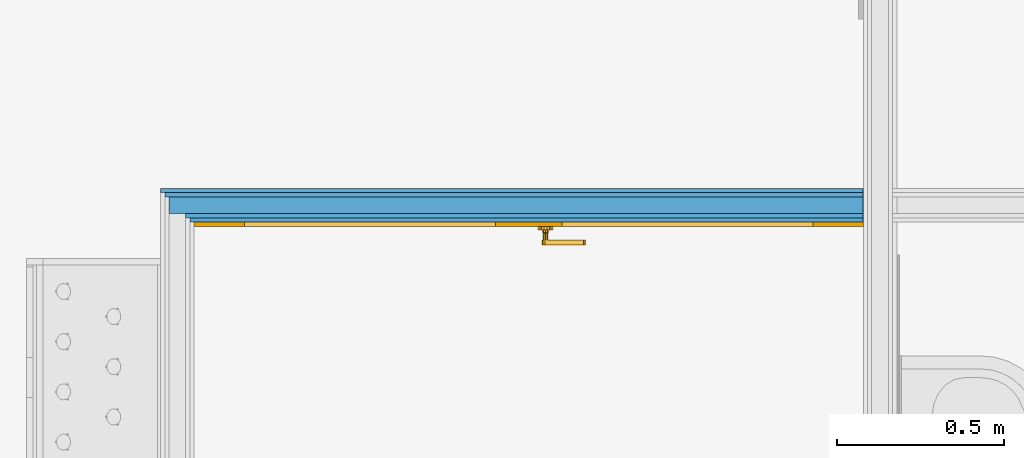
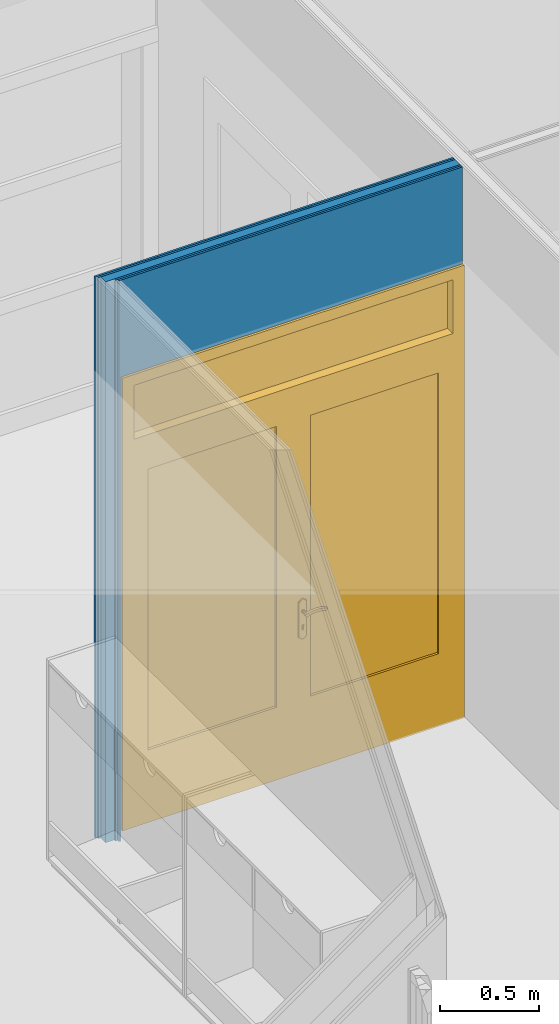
# One storey, part 19 of 788: 5 building element parts, 1 door, 1 opening, 1 element without a shape of its own.
"""IFC2X3 building model written with IfcOpenShell, lengths in millimetres."""

from ifc_helpers import new_model, entity, si_unit, converted_unit, derived_unit, money_unit, direction, frame, origin_with_axes, place, context, subcontext, project, spatial, open_shell, faceted_brep, surface_model, source, transform, mapped, material, type_object, type_shapes, element, fill, aggregate, save


model = new_model("IFC2X3")

# Units and contexts
model_context = context("Model", 3, precision=0.01, world=origin_with_axes(), true_north=direction((0.0, 1.0)))
plan_context = context("Plan", 3, precision=0.01, world=origin_with_axes(), true_north=direction((0.0, 1.0)))
body_context = subcontext(model_context, "Body", "Model", "MODEL_VIEW")
ifc_project = project(units=[si_unit("LENGTHUNIT", "METRE", prefix="MILLI"), si_unit("AREAUNIT", "SQUARE_METRE"), si_unit("VOLUMEUNIT", "CUBIC_METRE"), converted_unit("PLANEANGLEUNIT", "DEGREE", entity("IfcPlaneAngleMeasure", 0.0174532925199), si_unit("PLANEANGLEUNIT", "RADIAN"), dimensions=[0, 0, 0, 0, 0, 0, 0]), money_unit("EUR"), converted_unit("TIMEUNIT", "Year", entity("IfcTimeMeasure", 31556926.0), si_unit("TIMEUNIT", "SECOND"), dimensions=[0, 0, 1, 0, 0, 0, 0]), si_unit("MASSUNIT", "GRAM", prefix="KILO"), si_unit("THERMODYNAMICTEMPERATUREUNIT", "DEGREE_CELSIUS"), si_unit("LUMINOUSINTENSITYUNIT", "LUMEN"), si_unit("ENERGYUNIT", "JOULE", prefix="MEGA"), derived_unit("THERMALCONDUCTANCEUNIT", [(si_unit("POWERUNIT", "WATT"), 1), (si_unit("LENGTHUNIT", "METRE"), -1), (si_unit("THERMODYNAMICTEMPERATUREUNIT", "KELVIN"), -1)]), derived_unit("SPECIFICHEATCAPACITYUNIT", [(si_unit("ENERGYUNIT", "JOULE"), 1), (si_unit("MASSUNIT", "GRAM", prefix="KILO"), -1), (si_unit("THERMODYNAMICTEMPERATUREUNIT", "KELVIN"), -1)]), derived_unit("MASSDENSITYUNIT", [(si_unit("MASSUNIT", "GRAM", prefix="KILO"), 1), (si_unit("VOLUMEUNIT", "CUBIC_METRE"), -1)])], contexts=[model_context, plan_context])

# Site, building, storey
site_placement = place(None, origin_with_axes())
site = spatial("IfcSite", under=ifc_project, at=site_placement, Name="Site", CompositionType="ELEMENT")
building_placement = place(site_placement, origin_with_axes())
building = spatial("IfcBuilding", under=site, at=building_placement, Name="Naam gebouw", CompositionType="ELEMENT")
storey_placement = place(building_placement, origin_with_axes())
storey = spatial("IfcBuildingStorey", under=building, at=storey_placement, Name="Begane grond", CompositionType="ELEMENT", Elevation=0.0)

# Door
door_style = type_object("IfcDoorStyle", Name="D2 bl 25", ConstructionType="NOTDEFINED", OperationType="DOUBLE_DOOR_SINGLE_SWING", ParameterTakesPrecedence=False, Sizeable=False)
shared_shape = source(origin_with_axes(), body_context, "Body", "SurfaceModel", [
    faceted_brep([(933.0, -40.0, 2327.0), (933.0, -40.0, 0.0), (933.0, -114.0, 0.0), (933.0, -114.0, 2310.0), (933.0, -114.0, 2400.0), (933.0, 0.0, 2400.0), (933.0, 0.0, 2327.0), (950.0, -40.0, 2327.0), (950.0, -40.0, 0.0), (950.0, 0.0, 0.0), (1000.0, 0.0, 0.0), (1000.0, -114.0, 0.0), (1000.0, -114.0, 2733.0), (933.0, -114.0, 2733.0), (933.0, 0.0, 2733.0), (950.0, 0.0, 2327.0), (1000.0, 0.0, 2733.0)], [[[0, 1, 2, 3, 4, 5, 6]], [[0, 7, 8, 1]], [[8, 9, 10, 11, 2, 1]], [[4, 3, 2, 11, 12, 13]], [[14, 5, 4, 13]], [[15, 6, 5, 14, 16, 10, 9]], [[6, 15, 7, 0]], [[9, 8, 7, 15]], [[10, 16, 12, 11]], [[16, 14, 13, 12]]]),
    faceted_brep([(-950.0, 0.0, 2327.0), (-950.0, 0.0, 0.0), (-1000.0, 0.0, 0.0), (-1000.0, 0.0, 2733.0), (-933.0, 0.0, 2733.0), (-933.0, 0.0, 2400.0), (-933.0, 0.0, 2327.0), (-950.0, -40.0, 2327.0), (-950.0, -40.0, 0.0), (-933.0, -40.0, 0.0), (-933.0, -114.0, 0.0), (-1000.0, -114.0, 0.0), (-1000.0, -114.0, 2733.0), (-933.0, -114.0, 2733.0), (-933.0, -114.0, 2400.0), (-933.0, -40.0, 2327.0), (-933.0, -114.0, 2310.0)], [[[0, 1, 2, 3, 4, 5, 6]], [[0, 7, 8, 1]], [[8, 9, 10, 11, 2, 1]], [[3, 2, 11, 12]], [[4, 3, 12, 13]], [[5, 4, 13, 14]], [[15, 6, 5, 14, 16, 10, 9]], [[6, 15, 7, 0]], [[8, 7, 15, 9]], [[14, 13, 12, 11, 10, 16]]]),
    faceted_brep([(1000.0, 0.0, 2800.0), (1000.0, -114.0, 2800.0), (1000.0, -114.0, 2733.0), (1000.0, 0.0, 2733.0), (-1000.0, 0.0, 2800.0), (-1000.0, -114.0, 2800.0), (-1000.0, -114.0, 2733.0), (-933.0, -114.0, 2733.0), (933.0, -114.0, 2733.0), (933.0, 0.0, 2733.0), (-933.0, 0.0, 2733.0), (-1000.0, 0.0, 2733.0)], [[[0, 1, 2, 3]], [[4, 5, 1, 0]], [[1, 5, 6, 7, 8, 2]], [[3, 2, 8, 9]], [[0, 3, 9, 10, 11, 4]], [[11, 6, 5, 4]], [[10, 7, 6, 11]], [[9, 8, 7, 10]]]),
    faceted_brep([(-933.0, -40.0, 2327.0), (-933.0, -40.0, 2310.0), (-933.0, -114.0, 2310.0), (-933.0, -114.0, 2400.0), (-933.0, 0.0, 2400.0), (-933.0, 0.0, 2327.0), (933.0, -40.0, 2327.0), (933.0, -40.0, 2310.0), (933.0, -114.0, 2310.0), (933.0, -114.0, 2400.0), (933.0, 0.0, 2400.0), (933.0, 0.0, 2327.0)], [[[0, 1, 2, 3, 4, 5]], [[0, 6, 7, 1]], [[7, 8, 2, 1]], [[8, 9, 3, 2]], [[10, 4, 3, 9]], [[5, 4, 10, 11]], [[5, 11, 6, 0]], [[6, 11, 10, 9, 8, 7]]]),
    faceted_brep([(-45.2977179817, -80.0, 1006.47213595), (-45.2977179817, -60.0, 1006.47213595), (-50.0, -60.0, 1008.0), (-50.0, -80.0, 1008.0), (-42.3915478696, -80.0, 1002.47213595), (-42.3915478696, -60.0, 1002.47213595), (-44.1221474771, -58.0, 1008.09016994), (-50.0, -58.0, 1010.0), (-54.7022820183, -60.0, 1006.47213595), (-54.7022820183, -80.0, 1006.47213595), (-57.6084521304, -80.0, 1002.47213595), (-57.6084521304, -80.0, 997.527864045), (-54.7022820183, -80.0, 993.527864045), (-50.0, -80.0, 992.0), (-45.2977179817, -80.0, 993.527864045), (-42.3915478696, -80.0, 997.527864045), (-42.3915478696, -60.0, 997.527864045), (-40.489434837, -58.0, 1003.09016994), (-44.1221474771, -50.0, 1008.09016994), (-50.0, -50.0, 1010.0), (-55.8778525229, -58.0, 1008.09016994), (-57.6084521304, -60.0, 1002.47213595), (-57.6084521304, -60.0, 997.527864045), (-54.7022820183, -60.0, 993.527864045), (-50.0, -60.0, 992.0), (-45.2977179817, -60.0, 993.527864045), (-40.489434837, -58.0, 996.909830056), (-40.489434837, -50.0, 1003.09016994), (-40.489434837, -50.0, 996.909830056), (-44.1221474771, -50.0, 991.909830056), (-50.0, -50.0, 990.0), (-55.8778525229, -50.0, 991.909830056), (-59.510565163, -50.0, 996.909830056), (-59.510565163, -50.0, 1003.09016994), (-55.8778525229, -50.0, 1008.09016994), (-59.510565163, -58.0, 1003.09016994), (-59.510565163, -58.0, 996.909830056), (-55.8778525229, -58.0, 991.909830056), (-50.0, -58.0, 990.0), (-44.1221474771, -58.0, 991.909830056)], [[[0, 1, 2, 3]], [[4, 5, 1, 0]], [[1, 6, 7, 2]], [[3, 2, 8, 9]], [[3, 9, 10, 11, 12, 13, 14, 15, 4, 0]], [[15, 16, 5, 4]], [[5, 17, 6, 1]], [[6, 18, 19, 7]], [[2, 7, 20, 8]], [[9, 8, 21, 10]], [[10, 21, 22, 11]], [[11, 22, 23, 12]], [[12, 23, 24, 13]], [[13, 24, 25, 14]], [[14, 25, 16, 15]], [[16, 26, 17, 5]], [[17, 27, 18, 6]], [[19, 18, 27, 28, 29, 30, 31, 32, 33, 34]], [[7, 19, 34, 20]], [[8, 20, 35, 21]], [[21, 35, 36, 22]], [[22, 36, 37, 23]], [[23, 37, 38, 24]], [[24, 38, 39, 25]], [[25, 39, 26, 16]], [[26, 28, 27, 17]], [[39, 29, 28, 26]], [[38, 30, 29, 39]], [[37, 31, 30, 38]], [[36, 32, 31, 37]], [[35, 33, 32, 36]], [[20, 34, 33, 35]]]),
    faceted_brep([(-62.1883833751, -50.0, 1067.59695641), (-66.8, -50.0, 1060.0), (-72.5, -50.0, 1060.0), (-72.5, -50.0, 840.0), (-66.8, -50.0, 840.0), (-62.1883833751, -50.0, 832.403043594), (-54.4435558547, -50.0, 828.044328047), (-45.5564441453, -50.0, 828.044328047), (-37.8116166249, -50.0, 832.403043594), (-33.2, -50.0, 840.0), (-27.5, -50.0, 840.0), (-27.5, -50.0, 1060.0), (-33.2, -50.0, 1060.0), (-37.8116166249, -50.0, 1067.59695641), (-45.5564441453, -50.0, 1071.95567195), (-54.4435558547, -50.0, 1071.95567195), (-50.0, -50.0, 917.425445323), (-44.624817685, -50.0, 915.143815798), (-42.5321692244, -50.0, 909.692280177), (-45.0, -50.0, 904.4), (-45.0, -50.0, 887.5), (-46.4644660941, -50.0, 883.964466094), (-50.0, -50.0, 882.5), (-53.5355339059, -50.0, 883.964466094), (-55.0, -50.0, 887.5), (-55.0, -50.0, 904.4), (-57.4678307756, -50.0, 909.692280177), (-55.375182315, -50.0, 915.143815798), (-62.1883833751, -40.0, 1067.59695641), (-66.8, -40.0, 1060.0), (-72.5, -40.0, 1060.0), (-72.5, -40.0, 840.0), (-66.8, -40.0, 840.0), (-62.1883833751, -40.0, 832.403043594), (-54.4435558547, -40.0, 828.044328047), (-45.5564441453, -40.0, 828.044328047), (-37.8116166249, -40.0, 832.403043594), (-33.2, -40.0, 840.0), (-27.5, -40.0, 840.0), (-27.5, -40.0, 1060.0), (-33.2, -40.0, 1060.0), (-37.8116166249, -40.0, 1067.59695641), (-45.5564441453, -40.0, 1071.95567195), (-54.4435558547, -40.0, 1071.95567195), (-50.0, -40.0, 917.425445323), (-44.624817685, -40.0, 915.143815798), (-42.5321692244, -40.0, 909.692280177), (-45.0, -40.0, 904.4), (-45.0, -40.0, 887.5), (-46.4644660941, -40.0, 883.964466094), (-50.0, -40.0, 882.5), (-53.5355339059, -40.0, 883.964466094), (-55.0, -40.0, 887.5), (-55.0, -40.0, 904.4), (-57.4678307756, -40.0, 909.692280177), (-55.375182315, -40.0, 915.143815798)], [[[0, 1, 2, 3, 4, 5, 6, 7, 8, 9, 10, 11, 12, 13, 14, 15], [16, 17, 18, 19, 20, 21, 22, 23, 24, 25, 26, 27]], [[0, 28, 29, 1]], [[1, 29, 30, 2]], [[2, 30, 31, 3]], [[3, 31, 32, 4]], [[4, 32, 33, 5]], [[5, 33, 34, 6]], [[6, 34, 35, 7]], [[7, 35, 36, 8]], [[8, 36, 37, 9]], [[9, 37, 38, 10]], [[10, 38, 39, 11]], [[11, 39, 40, 12]], [[12, 40, 41, 13]], [[13, 41, 42, 14]], [[14, 42, 43, 15]], [[15, 43, 28, 0]], [[16, 44, 45, 17]], [[17, 45, 46, 18]], [[18, 46, 47, 19]], [[47, 48, 20, 19]], [[21, 20, 48, 49]], [[22, 21, 49, 50]], [[23, 22, 50, 51]], [[24, 23, 51, 52]], [[25, 24, 52, 53]], [[25, 53, 54, 26]], [[26, 54, 55, 27]], [[27, 55, 44, 16]], [[32, 31, 30, 29, 28, 43, 42, 41, 40, 39, 38, 37, 36, 35, 34, 33], [46, 45, 44, 55, 54, 53, 52, 51, 50, 49, 48, 47]]]),
    faceted_brep([(-164.253, -80.0, 1007.158), (-164.254491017, -80.0, 1007.19388416), (-164.254491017, -95.0, 1007.19388416), (-164.253, -95.0, 1007.158), (-137.225369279, -80.0, 1014.32652034), (-109.397256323, -80.0, 1017.06086405), (-81.4912596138, -80.0, 1015.29002982), (-54.232, -80.0, 1009.06), (-47.8294248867, -80.0, 1009.76125134), (-42.3273660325, -80.0, 1006.41280843), (-40.0084873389, -80.0, 1000.40385485), (-41.8348324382, -80.0, 994.227352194), (-47.0486973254, -80.0, 990.445773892), (-53.4869824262, -80.0, 990.628000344), (-58.4786074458, -80.0, 994.698430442), (-58.458, -80.0, 994.666), (-83.7467138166, -80.0, 1000.19878945), (-109.589181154, -80.0, 1001.71460194), (-135.351315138, -80.0, 999.176244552), (-160.401, -80.0, 992.646), (-165.944184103, -80.0, 993.568490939), (-169.30572551, -80.0, 998.071591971), (-168.614155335, -80.0, 1003.64829442), (-168.614155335, -95.0, 1003.64829442), (-169.30572551, -95.0, 998.071591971), (-165.944184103, -95.0, 993.568490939), (-160.401, -95.0, 992.646), (-135.351315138, -95.0, 999.176244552), (-109.589181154, -95.0, 1001.71460194), (-83.7467138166, -95.0, 1000.19878945), (-58.458, -95.0, 994.666), (-58.4786074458, -95.0, 994.698430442), (-53.4869824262, -95.0, 990.628000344), (-47.0486973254, -95.0, 990.445773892), (-41.8348324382, -95.0, 994.227352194), (-40.0084873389, -95.0, 1000.40385485), (-42.3273660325, -95.0, 1006.41280843), (-47.8294248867, -95.0, 1009.76125134), (-54.232, -95.0, 1009.06), (-81.4912596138, -95.0, 1015.29002982), (-109.397256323, -95.0, 1017.06086405), (-137.225369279, -95.0, 1014.32652034)], [[[0, 1, 2, 3]], [[0, 4, 5, 6, 7, 8, 9, 10, 11, 12, 13, 14, 15, 16, 17, 18, 19, 20, 21, 22, 1]], [[1, 22, 23, 2]], [[3, 2, 23, 24, 25, 26, 27, 28, 29, 30, 31, 32, 33, 34, 35, 36, 37, 38, 39, 40, 41]], [[4, 0, 3, 41]], [[5, 4, 41, 40]], [[6, 5, 40, 39]], [[7, 6, 39, 38]], [[8, 7, 38, 37]], [[9, 8, 37, 36]], [[10, 9, 36, 35]], [[11, 10, 35, 34]], [[12, 11, 34, 33]], [[13, 12, 33, 32]], [[14, 13, 32, 31]], [[15, 14, 31, 30]], [[16, 15, 30, 29]], [[17, 16, 29, 28]], [[18, 17, 28, 27]], [[19, 18, 27, 26]], [[20, 19, 26, 25]], [[21, 20, 25, 24]], [[22, 21, 24, 23]]]),
    faceted_brep([(-45.2977179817, 40.0, 1006.47213595), (-50.0, 40.0, 1008.0), (-50.0, 20.0, 1008.0), (-45.2977179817, 20.0, 1006.47213595), (-42.3915478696, 40.0, 1002.47213595), (-42.3915478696, 40.0, 997.527864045), (-45.2977179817, 40.0, 993.527864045), (-50.0, 40.0, 992.0), (-54.7022820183, 40.0, 993.527864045), (-57.6084521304, 40.0, 997.527864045), (-57.6084521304, 40.0, 1002.47213595), (-54.7022820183, 40.0, 1006.47213595), (-54.7022820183, 20.0, 1006.47213595), (-50.0, 18.0, 1010.0), (-44.1221474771, 18.0, 1008.09016994), (-42.3915478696, 20.0, 1002.47213595), (-42.3915478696, 20.0, 997.527864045), (-45.2977179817, 20.0, 993.527864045), (-50.0, 20.0, 992.0), (-54.7022820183, 20.0, 993.527864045), (-57.6084521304, 20.0, 997.527864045), (-57.6084521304, 20.0, 1002.47213595), (-55.8778525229, 18.0, 1008.09016994), (-50.0, 10.0, 1010.0), (-44.1221474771, 10.0, 1008.09016994), (-40.489434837, 18.0, 1003.09016994), (-40.489434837, 18.0, 996.909830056), (-44.1221474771, 18.0, 991.909830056), (-50.0, 18.0, 990.0), (-55.8778525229, 18.0, 991.909830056), (-59.510565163, 18.0, 996.909830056), (-59.510565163, 18.0, 1003.09016994), (-55.8778525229, 10.0, 1008.09016994), (-59.510565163, 10.0, 1003.09016994), (-59.510565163, 10.0, 996.909830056), (-55.8778525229, 10.0, 991.909830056), (-50.0, 10.0, 990.0), (-44.1221474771, 10.0, 991.909830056), (-40.489434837, 10.0, 996.909830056), (-40.489434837, 10.0, 1003.09016994)], [[[0, 1, 2, 3]], [[1, 0, 4, 5, 6, 7, 8, 9, 10, 11]], [[1, 11, 12, 2]], [[3, 2, 13, 14]], [[4, 0, 3, 15]], [[5, 4, 15, 16]], [[6, 5, 16, 17]], [[7, 6, 17, 18]], [[8, 7, 18, 19]], [[9, 8, 19, 20]], [[10, 9, 20, 21]], [[11, 10, 21, 12]], [[2, 12, 22, 13]], [[14, 13, 23, 24]], [[15, 3, 14, 25]], [[16, 15, 25, 26]], [[17, 16, 26, 27]], [[18, 17, 27, 28]], [[19, 18, 28, 29]], [[20, 19, 29, 30]], [[21, 20, 30, 31]], [[12, 21, 31, 22]], [[13, 22, 32, 23]], [[23, 32, 33, 34, 35, 36, 37, 38, 39, 24]], [[25, 14, 24, 39]], [[26, 25, 39, 38]], [[27, 26, 38, 37]], [[28, 27, 37, 36]], [[29, 28, 36, 35]], [[30, 29, 35, 34]], [[31, 30, 34, 33]], [[22, 31, 33, 32]]]),
    faceted_brep([(-62.1883833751, 0.0, 1067.59695641), (-66.8, 0.0, 1060.0), (-72.5, 0.0, 1060.0), (-72.5, 0.0, 840.0), (-66.8, 0.0, 840.0), (-62.1883833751, 0.0, 832.403043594), (-54.4435558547, 0.0, 828.044328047), (-45.5564441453, 0.0, 828.044328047), (-37.8116166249, 0.0, 832.403043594), (-33.2, 0.0, 840.0), (-27.5, 0.0, 840.0), (-27.5, 0.0, 1060.0), (-33.2, 0.0, 1060.0), (-37.8116166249, 0.0, 1067.59695641), (-45.5564441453, 0.0, 1071.95567195), (-54.4435558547, 0.0, 1071.95567195), (-50.0, 0.0, 917.425445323), (-44.624817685, 0.0, 915.143815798), (-42.5321692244, 0.0, 909.692280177), (-45.0, 0.0, 904.4), (-45.0, 0.0, 887.5), (-46.4644660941, 0.0, 883.964466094), (-50.0, 0.0, 882.5), (-53.5355339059, 0.0, 883.964466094), (-55.0, 0.0, 887.5), (-55.0, 0.0, 904.4), (-57.4678307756, 0.0, 909.692280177), (-55.375182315, 0.0, 915.143815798), (-62.1883833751, 10.0, 1067.59695641), (-66.8, 10.0, 1060.0), (-72.5, 10.0, 1060.0), (-72.5, 10.0, 840.0), (-66.8, 10.0, 840.0), (-62.1883833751, 10.0, 832.403043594), (-54.4435558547, 10.0, 828.044328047), (-45.5564441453, 10.0, 828.044328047), (-37.8116166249, 10.0, 832.403043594), (-33.2, 10.0, 840.0), (-27.5, 10.0, 840.0), (-27.5, 10.0, 1060.0), (-33.2, 10.0, 1060.0), (-37.8116166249, 10.0, 1067.59695641), (-45.5564441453, 10.0, 1071.95567195), (-54.4435558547, 10.0, 1071.95567195), (-50.0, 10.0, 917.425445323), (-44.624817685, 10.0, 915.143815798), (-42.5321692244, 10.0, 909.692280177), (-45.0, 10.0, 904.4), (-45.0, 10.0, 887.5), (-46.4644660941, 10.0, 883.964466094), (-50.0, 10.0, 882.5), (-53.5355339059, 10.0, 883.964466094), (-55.0, 10.0, 887.5), (-55.0, 10.0, 904.4), (-57.4678307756, 10.0, 909.692280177), (-55.375182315, 10.0, 915.143815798)], [[[0, 1, 2, 3, 4, 5, 6, 7, 8, 9, 10, 11, 12, 13, 14, 15], [16, 17, 18, 19, 20, 21, 22, 23, 24, 25, 26, 27]], [[28, 29, 1, 0]], [[29, 30, 2, 1]], [[30, 31, 3, 2]], [[31, 32, 4, 3]], [[32, 33, 5, 4]], [[33, 34, 6, 5]], [[34, 35, 7, 6]], [[35, 36, 8, 7]], [[36, 37, 9, 8]], [[37, 38, 10, 9]], [[38, 39, 11, 10]], [[39, 40, 12, 11]], [[40, 41, 13, 12]], [[41, 42, 14, 13]], [[42, 43, 15, 14]], [[43, 28, 0, 15]], [[16, 44, 45, 17]], [[17, 45, 46, 18]], [[18, 46, 47, 19]], [[47, 48, 20, 19]], [[21, 20, 48, 49]], [[22, 21, 49, 50]], [[23, 22, 50, 51]], [[24, 23, 51, 52]], [[25, 24, 52, 53]], [[25, 53, 54, 26]], [[26, 54, 55, 27]], [[27, 55, 44, 16]], [[32, 31, 30, 29, 28, 43, 42, 41, 40, 39, 38, 37, 36, 35, 34, 33], [46, 45, 44, 55, 54, 53, 52, 51, 50, 49, 48, 47]]]),
    faceted_brep([(-164.253, 40.0, 1007.158), (-164.253, 55.0, 1007.158), (-164.254491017, 55.0, 1007.19388416), (-164.254491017, 40.0, 1007.19388416), (-137.225369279, 40.0, 1014.32652034), (-137.225369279, 55.0, 1014.32652034), (-109.397256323, 55.0, 1017.06086405), (-81.4912596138, 55.0, 1015.29002982), (-54.232, 55.0, 1009.06), (-47.8294248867, 55.0, 1009.76125134), (-42.3273660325, 55.0, 1006.41280843), (-40.0084873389, 55.0, 1000.40385485), (-41.8348324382, 55.0, 994.227352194), (-47.0486973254, 55.0, 990.445773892), (-53.4869824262, 55.0, 990.628000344), (-58.4786074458, 55.0, 994.698430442), (-58.458, 55.0, 994.666), (-83.7467138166, 55.0, 1000.19878945), (-109.589181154, 55.0, 1001.71460194), (-135.351315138, 55.0, 999.176244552), (-160.401, 55.0, 992.646), (-165.944184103, 55.0, 993.568490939), (-169.30572551, 55.0, 998.071591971), (-168.614155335, 55.0, 1003.64829442), (-168.614155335, 40.0, 1003.64829442), (-169.30572551, 40.0, 998.071591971), (-165.944184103, 40.0, 993.568490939), (-160.401, 40.0, 992.646), (-135.351315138, 40.0, 999.176244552), (-109.589181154, 40.0, 1001.71460194), (-83.7467138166, 40.0, 1000.19878945), (-58.458, 40.0, 994.666), (-58.4786074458, 40.0, 994.698430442), (-53.4869824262, 40.0, 990.628000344), (-47.0486973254, 40.0, 990.445773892), (-41.8348324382, 40.0, 994.227352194), (-40.0084873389, 40.0, 1000.40385485), (-42.3273660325, 40.0, 1006.41280843), (-47.8294248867, 40.0, 1009.76125134), (-54.232, 40.0, 1009.06), (-81.4912596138, 40.0, 1015.29002982), (-109.397256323, 40.0, 1017.06086405)], [[[0, 1, 2, 3]], [[4, 5, 1, 0]], [[1, 5, 6, 7, 8, 9, 10, 11, 12, 13, 14, 15, 16, 17, 18, 19, 20, 21, 22, 23, 2]], [[3, 2, 23, 24]], [[0, 3, 24, 25, 26, 27, 28, 29, 30, 31, 32, 33, 34, 35, 36, 37, 38, 39, 40, 41, 4]], [[41, 6, 5, 4]], [[40, 7, 6, 41]], [[39, 8, 7, 40]], [[38, 9, 8, 39]], [[37, 10, 9, 38]], [[36, 11, 10, 37]], [[35, 12, 11, 36]], [[34, 13, 12, 35]], [[33, 14, 13, 34]], [[32, 15, 14, 33]], [[31, 16, 15, 32]], [[30, 17, 16, 31]], [[29, 18, 17, 30]], [[28, 19, 18, 29]], [[27, 20, 19, 28]], [[26, 21, 20, 27]], [[25, 22, 21, 26]], [[24, 23, 22, 25]]]),
    faceted_brep([(-950.0, 0.0, 450.0), (-850.0, 0.0, 450.0), (-850.0, -40.0, 450.0), (-950.0, -40.0, 450.0), (-950.0, 0.0, 2187.0), (-850.0, 0.0, 2187.0), (-850.0, -40.0, 2187.0), (-950.0, -40.0, 2187.0)], [[[0, 1, 2, 3]], [[0, 4, 5, 1]], [[1, 5, 6, 2]], [[3, 2, 6, 7]], [[4, 0, 3, 7]], [[5, 4, 7, 6]]]),
    faceted_brep([(0.0, 0.0, 450.0), (0.0, 0.0, 2187.0), (0.0, -40.0, 2187.0), (0.0, -40.0, 450.0), (-100.0, 0.0, 450.0), (-100.0, 0.0, 2187.0), (-100.0, -40.0, 2187.0), (-100.0, -40.0, 450.0)], [[[0, 1, 2, 3]], [[0, 4, 5, 1]], [[1, 5, 6, 2]], [[3, 2, 6, 7]], [[4, 0, 3, 7]], [[5, 4, 7, 6]]]),
    faceted_brep([(-950.0, 0.0, 0.0), (0.0, 0.0, 0.0), (0.0, -40.0, 0.0), (-950.0, -40.0, 0.0), (-950.0, 0.0, 450.0), (-850.0, 0.0, 450.0), (-100.0, 0.0, 450.0), (0.0, 0.0, 450.0), (0.0, -40.0, 450.0), (-100.0, -40.0, 450.0), (-850.0, -40.0, 450.0), (-950.0, -40.0, 450.0)], [[[0, 1, 2, 3]], [[0, 4, 5, 6, 7, 1]], [[1, 7, 8, 2]], [[3, 2, 8, 9, 10, 11]], [[4, 0, 3, 11]], [[5, 4, 11, 10]], [[6, 5, 10, 9]], [[7, 6, 9, 8]]]),
    faceted_brep([(-950.0, 0.0, 2327.0), (-950.0, 0.0, 2187.0), (-950.0, -40.0, 2187.0), (-950.0, -40.0, 2327.0), (0.0, 0.0, 2327.0), (0.0, 0.0, 2187.0), (-100.0, 0.0, 2187.0), (-850.0, 0.0, 2187.0), (-850.0, -40.0, 2187.0), (-100.0, -40.0, 2187.0), (0.0, -40.0, 2187.0), (0.0, -40.0, 2327.0)], [[[0, 1, 2, 3]], [[0, 4, 5, 6, 7, 1]], [[1, 7, 8, 2]], [[3, 2, 8, 9, 10, 11]], [[4, 0, 3, 11]], [[5, 4, 11, 10]], [[6, 5, 10, 9]], [[7, 6, 9, 8]]]),
    surface_model("IfcShellBasedSurfaceModel", [(-850.0, -14.0, 450.0), (-850.0, -14.0, 2187.0), (-100.0, -14.0, 2187.0), (-100.0, -14.0, 450.0)], [open_shell([[[0, 1, 2, 3]]])]),
    surface_model("IfcShellBasedSurfaceModel", [(-850.0, -26.0, 450.0), (-100.0, -26.0, 450.0), (-100.0, -26.0, 2187.0), (-850.0, -26.0, 2187.0)], [open_shell([[[0, 1, 2, 3]]])]),
    faceted_brep([(950.0, 0.0, 450.0), (950.0, -40.0, 450.0), (850.0, -40.0, 450.0), (850.0, 0.0, 450.0), (950.0, 0.0, 2187.0), (950.0, -40.0, 2187.0), (850.0, -40.0, 2187.0), (850.0, 0.0, 2187.0)], [[[0, 1, 2, 3]], [[4, 5, 1, 0]], [[1, 5, 6, 2]], [[3, 2, 6, 7]], [[0, 3, 7, 4]], [[7, 6, 5, 4]]]),
    faceted_brep([(0.0, 0.0, 450.0), (0.0, -40.0, 450.0), (0.0, -40.0, 2187.0), (0.0, 0.0, 2187.0), (100.0, 0.0, 450.0), (100.0, -40.0, 450.0), (100.0, -40.0, 2187.0), (100.0, 0.0, 2187.0)], [[[0, 1, 2, 3]], [[4, 5, 1, 0]], [[1, 5, 6, 2]], [[3, 2, 6, 7]], [[0, 3, 7, 4]], [[7, 6, 5, 4]]]),
    faceted_brep([(950.0, 0.0, 0.0), (950.0, -40.0, 0.0), (0.0, -40.0, 0.0), (0.0, 0.0, 0.0), (950.0, 0.0, 450.0), (950.0, -40.0, 450.0), (850.0, -40.0, 450.0), (100.0, -40.0, 450.0), (0.0, -40.0, 450.0), (0.0, 0.0, 450.0), (100.0, 0.0, 450.0), (850.0, 0.0, 450.0)], [[[0, 1, 2, 3]], [[4, 5, 1, 0]], [[1, 5, 6, 7, 8, 2]], [[3, 2, 8, 9]], [[0, 3, 9, 10, 11, 4]], [[11, 6, 5, 4]], [[10, 7, 6, 11]], [[9, 8, 7, 10]]]),
    faceted_brep([(950.0, 0.0, 2327.0), (950.0, -40.0, 2327.0), (950.0, -40.0, 2187.0), (950.0, 0.0, 2187.0), (0.0, 0.0, 2327.0), (0.0, -40.0, 2327.0), (0.0, -40.0, 2187.0), (100.0, -40.0, 2187.0), (850.0, -40.0, 2187.0), (850.0, 0.0, 2187.0), (100.0, 0.0, 2187.0), (0.0, 0.0, 2187.0)], [[[0, 1, 2, 3]], [[4, 5, 1, 0]], [[1, 5, 6, 7, 8, 2]], [[3, 2, 8, 9]], [[0, 3, 9, 10, 11, 4]], [[11, 6, 5, 4]], [[10, 7, 6, 11]], [[9, 8, 7, 10]]]),
    surface_model("IfcShellBasedSurfaceModel", [(850.0, -14.0, 450.0), (100.0, -14.0, 450.0), (100.0, -14.0, 2187.0), (850.0, -14.0, 2187.0)], [open_shell([[[0, 1, 2, 3]]])]),
    surface_model("IfcShellBasedSurfaceModel", [(850.0, -26.0, 450.0), (850.0, -26.0, 2187.0), (100.0, -26.0, 2187.0), (100.0, -26.0, 450.0)], [open_shell([[[0, 1, 2, 3]]])]),
    surface_model("IfcShellBasedSurfaceModel", [(933.0, -54.0, 2400.0), (-933.0, -54.0, 2400.0), (-933.0, -54.0, 2733.0), (933.0, -54.0, 2733.0)], [open_shell([[[0, 1, 2, 3]]])]),
    surface_model("IfcShellBasedSurfaceModel", [(933.0, -66.0, 2400.0), (933.0, -66.0, 2733.0), (-933.0, -66.0, 2733.0), (-933.0, -66.0, 2400.0)], [open_shell([[[0, 1, 2, 3]]])]),
])
type_shapes(door_style, [shared_shape])
wall_placement = place(storey_placement, frame((50132.2589521, 24829.9913222, -70.0), z_axis=(0.0, 0.0, 1.0), x_axis=(-1.0, -9.45386407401e-09, 0.0)))
opening_placement = place(wall_placement, frame((998.00014464, 0.0, 70.0), z_axis=(0.0, 0.0, 1.0), x_axis=(1.0, 0.0, 0.0)))
door_placement = place(opening_placement, frame((-1000.0, 0.0, 0.0), z_axis=(0.0, 0.0, 1.0), x_axis=(1.0, 0.0, 0.0)))
door = element("IfcDoor", 1, at=door_placement, inside=storey, type_object=door_style, Name="b2.01", ObjectType="DOOR", OverallHeight=2800.0, OverallWidth=2000.0, context=body_context, shape_type="MappedRepresentation", body=[
    mapped(shared_shape, transform((1000.00000108, 63.999990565, 0.0))),
])

# Wall, opening
wall_type = type_object("IfcWallType", Name="22 Metalstud 100mm 100", PredefinedType="ELEMENTEDWALL")
wall = element("IfcWall", 2, at=wall_placement, inside=storey, type_object=wall_type, Name="Metalstud 100mm")
opening = element("IfcOpeningElement", 3, at=opening_placement, cuts=wall, Name="b2.01", context=body_context, shape_type="Brep", body=[
    faceted_brep([(-1000.00000142, -199.999990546, 0.0), (-1000.00000142, -199.999990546, 2800.0), (-999.999998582, 100.000009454, 2800.0), (-999.999998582, 100.000009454, 0.0), (999.999998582, -200.000009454, 0.0), (999.999998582, -200.000009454, 2800.0), (1000.00000142, 99.9999905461, 2800.0), (1000.00000142, 99.9999905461, 0.0)], [[[0, 1, 2, 3]], [[0, 4, 5, 1]], [[1, 5, 6, 2]], [[3, 2, 6, 7]], [[4, 0, 3, 7]], [[5, 4, 7, 6]]]),
])

fill(opening, door)

# Building element part
ifc_material_1 = material(Name="Gipsplaat")
building_element_part_1_placement = place(wall_placement, origin_with_axes())
building_element_part_1 = element("IfcBuildingElementPart", 4, at=building_element_part_1_placement, material=ifc_material_1, Name="Gipsplaat", context=body_context, shape_type="Brep", body=[
    faceted_brep([(4.72688554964e-07, 50.0, 2870.0), (3.5451819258e-07, 37.5, 2870.0), (3.5451819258e-07, 37.5, 3470.0), (4.72688554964e-07, 50.0, 3470.0), (1998.00014547, 37.4999811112, 2870.0), (1998.00014559, 49.9999811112, 2870.0), (1998.00014547, 37.4999811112, 70.0), (1998.00014464, 37.4999811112, 0.0), (2010.72262264, 37.4999809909, 0.0), (2010.72262264, 37.4999809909, 3470.0), (2010.72262276, 49.9999809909, 3470.0), (2010.72262276, 49.9999809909, 0.0), (1998.00014464, 49.9999811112, 0.0), (1998.00014559, 49.9999811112, 70.0)], [[[0, 1, 2, 3]], [[4, 1, 0, 5]], [[4, 6, 7, 8, 9, 2, 1]], [[10, 3, 2, 9]], [[5, 0, 3, 10, 11, 12, 13]], [[6, 4, 5, 13]], [[6, 13, 12, 7]], [[12, 11, 8, 7]], [[9, 8, 11, 10]]]),
])

building_element_part_2_placement = place(wall_placement, origin_with_axes())
building_element_part_2 = element("IfcBuildingElementPart", 5, at=building_element_part_2_placement, material=ifc_material_1, Name="Gipsplaat", context=body_context, shape_type="Brep", body=[
    faceted_brep([(3.5451819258e-07, 37.5, 2870.0), (2.36340724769e-07, 25.0, 2870.0), (2.36340724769e-07, 25.0, 3470.0), (3.5451819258e-07, 37.5, 3470.0), (1998.00014535, 24.9999811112, 2870.0), (1998.00014547, 37.4999811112, 2870.0), (1998.00014535, 24.9999811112, 70.0), (1998.00014464, 24.9999811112, 0.0), (2023.22262252, 24.9999808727, 0.0), (2023.22262252, 24.9999808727, 3470.0), (2023.22262264, 37.4999808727, 3470.0), (2023.22262264, 37.4999808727, 0.0), (1998.00014464, 37.4999811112, 0.0), (1998.00014547, 37.4999811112, 70.0)], [[[0, 1, 2, 3]], [[4, 1, 0, 5]], [[4, 6, 7, 8, 9, 2, 1]], [[10, 3, 2, 9]], [[5, 0, 3, 10, 11, 12, 13]], [[6, 4, 5, 13]], [[6, 13, 12, 7]], [[12, 11, 8, 7]], [[9, 8, 11, 10]]]),
])

ifc_material_2 = material(Name="Isolatie - Steenwol LSW")
building_element_part_3_placement = place(wall_placement, origin_with_axes())
building_element_part_3 = element("IfcBuildingElementPart", 6, at=building_element_part_3_placement, material=ifc_material_2, Name="Isolatie - Steenwol LSW", context=body_context, shape_type="Brep", body=[
    faceted_brep([(2.36340724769e-07, 25.0, 2870.0), (-2.36347830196e-07, -25.0, 2870.0), (-2.36347830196e-07, -25.0, 3470.0), (2.36340724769e-07, 25.0, 3470.0), (1998.00014488, -25.0000188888, 2870.0), (1998.00014535, 24.9999811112, 2870.0), (1998.00014488, -25.0000188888, 70.0), (1998.00014464, -25.0000188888, 0.0), (2073.22262205, -25.0000196, 0.0), (2073.22262205, -25.0000196, 3470.0), (2073.22262252, 24.9999804, 3470.0), (2073.22262252, 24.9999804, 0.0), (1998.00014464, 24.9999811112, 0.0), (1998.00014535, 24.9999811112, 70.0)], [[[0, 1, 2, 3]], [[4, 1, 0, 5]], [[4, 6, 7, 8, 9, 2, 1]], [[10, 3, 2, 9]], [[5, 0, 3, 10, 11, 12, 13]], [[6, 4, 5, 13]], [[6, 13, 12, 7]], [[12, 11, 8, 7]], [[9, 8, 11, 10]]]),
])

building_element_part_4_placement = place(wall_placement, origin_with_axes())
building_element_part_4 = element("IfcBuildingElementPart", 7, at=building_element_part_4_placement, material=ifc_material_1, Name="Gipsplaat", context=body_context, shape_type="Brep", body=[
    faceted_brep([(-2.36347830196e-07, -25.0, 2870.0), (-3.54525298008e-07, -37.5, 2870.0), (-3.54525298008e-07, -37.5, 3470.0), (-2.36347830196e-07, -25.0, 3470.0), (1998.00014476, -37.5000188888, 2870.0), (1998.00014488, -25.0000188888, 2870.0), (1998.00014476, -37.5000188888, 70.0), (1998.00014464, -37.5000188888, 0.0), (2085.72262193, -37.5000197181, 0.0), (2085.72262193, -37.5000197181, 3470.0), (2085.72262205, -25.0000197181, 3470.0), (2085.72262205, -25.0000197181, 0.0), (1998.00014464, -25.0000188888, 0.0), (1998.00014488, -25.0000188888, 70.0)], [[[0, 1, 2, 3]], [[4, 1, 0, 5]], [[4, 6, 7, 8, 9, 2, 1]], [[10, 3, 2, 9]], [[5, 0, 3, 10, 11, 12, 13]], [[6, 4, 5, 13]], [[6, 13, 12, 7]], [[12, 11, 8, 7]], [[9, 8, 11, 10]]]),
])

building_element_part_5_placement = place(wall_placement, origin_with_axes())
building_element_part_5 = element("IfcBuildingElementPart", 8, at=building_element_part_5_placement, material=ifc_material_1, Name="Gipsplaat", context=body_context, shape_type="Brep", body=[
    faceted_brep([(-3.54525298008e-07, -37.5, 2870.0), (-4.72695660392e-07, -50.0, 2870.0), (-4.72695660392e-07, -50.0, 3470.0), (-3.54525298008e-07, -37.5, 3470.0), (1998.00014464, -50.0000188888, 2870.0), (1998.00014476, -37.5000188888, 2870.0), (1998.00014464, -50.0000188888, 70.0), (1998.00014464, -50.0000188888, 0.0), (2098.22262181, -50.0000198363, 0.0), (2098.22262181, -50.0000198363, 3470.0), (2098.22262193, -37.5000198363, 3470.0), (2098.22262193, -37.5000198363, 0.0), (1998.00014464, -37.5000188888, 0.0), (1998.00014476, -37.5000188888, 70.0)], [[[0, 1, 2, 3]], [[4, 1, 0, 5]], [[4, 6, 7, 8, 9, 2, 1]], [[10, 3, 2, 9]], [[5, 0, 3, 10, 11, 12, 13]], [[6, 4, 5, 13]], [[6, 13, 12, 7]], [[12, 11, 8, 7]], [[9, 8, 11, 10]]]),
])

aggregate(wall, [building_element_part_1, building_element_part_2, building_element_part_3, building_element_part_4, building_element_part_5])

save(model, "model.ifc")
